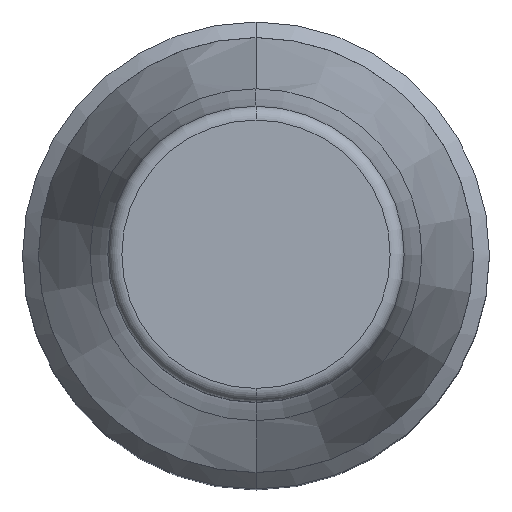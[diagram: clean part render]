
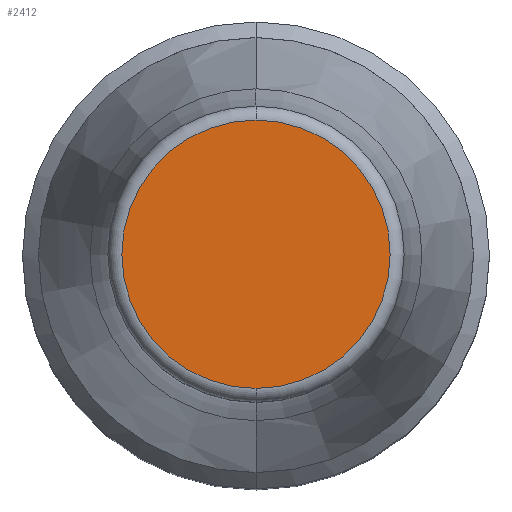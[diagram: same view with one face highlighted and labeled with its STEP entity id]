
A CAD part, top view. The second image highlights one B-rep face of the part: STEP entity #2412.
In plain terms, the highlighted planar face has unit normal (0, 0, 1).
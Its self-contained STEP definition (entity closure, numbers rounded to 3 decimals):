
#190=CARTESIAN_POINT('',(0.,0.,74.));
#191=DIRECTION('',(0.,0.,-1.));
#192=DIRECTION('',(0.,-1.,0.));
#193=AXIS2_PLACEMENT_3D('',#190,#191,#192);
#195=CARTESIAN_POINT('',(0.,0.,74.));
#196=DIRECTION('',(0.,0.,-1.));
#197=DIRECTION('',(0.,1.,0.));
#198=AXIS2_PLACEMENT_3D('',#195,#196,#197);
#1862=CARTESIAN_POINT('',(0.,7.7,74.));
#1863=VERTEX_POINT('',#1862);
#1864=CARTESIAN_POINT('',(0.,-7.7,74.));
#1865=VERTEX_POINT('',#1864);
#2403=CARTESIAN_POINT('',(0.,0.,74.));
#2404=DIRECTION('',(0.,0.,-1.));
#2405=DIRECTION('',(0.,-1.,0.));
#2406=AXIS2_PLACEMENT_3D('',#2403,#2404,#2405);
#2407=PLANE('',#2406);
#2408=ORIENTED_EDGE('',*,*,#2382,.T.);
#2409=ORIENTED_EDGE('',*,*,#2398,.T.);
#2410=EDGE_LOOP('',(#2408,#2409));
#2411=FACE_OUTER_BOUND('',#2410,.F.);
#2412=ADVANCED_FACE('',(#2411),#2407,.F.);
#194=CIRCLE('',#193,7.7);
#199=CIRCLE('',#198,7.7);
#2382=EDGE_CURVE('',#1865,#1863,#194,.T.);
#2398=EDGE_CURVE('',#1863,#1865,#199,.T.);
